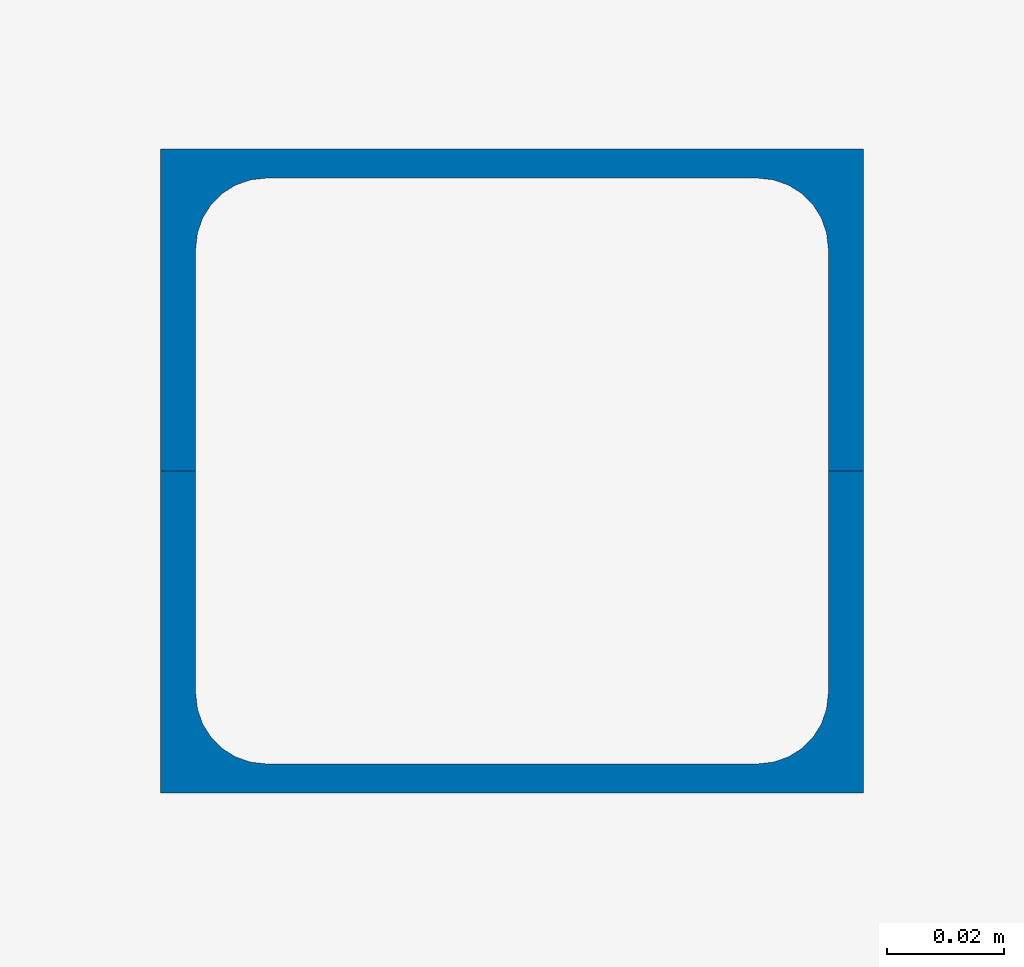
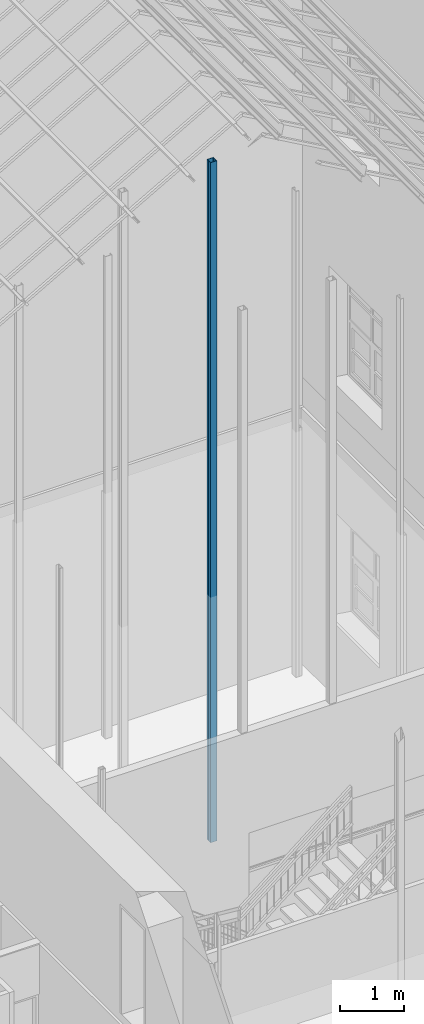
# One storey, part 13 of 75: 2 columns.
"""IFC2X3 building model written with IfcOpenShell, lengths in metres."""

from ifc_helpers import new_model, entity, si_unit, converted_unit, derived_unit, direction, frame, frame_2d, origin, place, context, subcontext, project, spatial, polyline, circle_curve, parameter, trimmed, segment, composite_curve, outline, extrude, source, transform, mapped, material, type_object, type_shapes, element, save


model = new_model("IFC2X3")

# Units and contexts
model_context = context("Model", 3, precision=1e-05, world=origin(), true_north=direction((6.12303176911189e-17, 1.0)))
body_context = subcontext(model_context, "Body", "Model", "MODEL_VIEW")
ifc_project = project(units=[si_unit("LENGTHUNIT", "METRE"), si_unit("AREAUNIT", "SQUARE_METRE"), si_unit("VOLUMEUNIT", "CUBIC_METRE"), converted_unit("PLANEANGLEUNIT", "DEGREE", entity("IfcRatioMeasure", 0.0174532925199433), si_unit("PLANEANGLEUNIT", "RADIAN"), dimensions=[0, 0, 0, 0, 0, 0, 0]), si_unit("MASSUNIT", "GRAM", prefix="KILO"), derived_unit("MASSDENSITYUNIT", [(si_unit("MASSUNIT", "GRAM", prefix="KILO"), 1), (si_unit("LENGTHUNIT", "METRE"), -3)]), derived_unit("MOMENTOFINERTIAUNIT", [(si_unit("LENGTHUNIT", "METRE"), 4)]), si_unit("TIMEUNIT", "SECOND"), si_unit("FREQUENCYUNIT", "HERTZ"), si_unit("THERMODYNAMICTEMPERATUREUNIT", "DEGREE_CELSIUS"), derived_unit("THERMALTRANSMITTANCEUNIT", [(si_unit("MASSUNIT", "GRAM", prefix="KILO"), 1), (si_unit("THERMODYNAMICTEMPERATUREUNIT", "KELVIN"), -1), (si_unit("TIMEUNIT", "SECOND"), -3)]), derived_unit("VOLUMETRICFLOWRATEUNIT", [(si_unit("LENGTHUNIT", "METRE"), 3), (si_unit("TIMEUNIT", "SECOND"), -1)]), si_unit("ELECTRICCURRENTUNIT", "AMPERE"), si_unit("ELECTRICVOLTAGEUNIT", "VOLT"), si_unit("POWERUNIT", "WATT"), si_unit("FORCEUNIT", "NEWTON", prefix="KILO"), si_unit("ILLUMINANCEUNIT", "LUX"), si_unit("LUMINOUSFLUXUNIT", "LUMEN"), si_unit("LUMINOUSINTENSITYUNIT", "CANDELA"), derived_unit("USERDEFINED", [(si_unit("MASSUNIT", "GRAM", prefix="KILO"), -1), (si_unit("LENGTHUNIT", "METRE"), -2), (si_unit("TIMEUNIT", "SECOND"), 3), (si_unit("LUMINOUSFLUXUNIT", "LUMEN"), 1)]), derived_unit("LINEARVELOCITYUNIT", [(si_unit("LENGTHUNIT", "METRE"), 1), (si_unit("TIMEUNIT", "SECOND"), -1)]), si_unit("PRESSUREUNIT", "PASCAL"), derived_unit("USERDEFINED", [(si_unit("LENGTHUNIT", "METRE"), -2), (si_unit("MASSUNIT", "GRAM", prefix="KILO"), 1), (si_unit("TIMEUNIT", "SECOND"), -2)]), derived_unit("LINEARFORCEUNIT", [(si_unit("MASSUNIT", "GRAM", prefix="KILO"), 1), (si_unit("LENGTHUNIT", "METRE"), 1), (si_unit("TIMEUNIT", "SECOND"), -2), (si_unit("LENGTHUNIT", "METRE"), -1)]), derived_unit("PLANARFORCEUNIT", [(si_unit("MASSUNIT", "GRAM", prefix="KILO"), 1), (si_unit("LENGTHUNIT", "METRE"), 1), (si_unit("TIMEUNIT", "SECOND"), -2), (si_unit("LENGTHUNIT", "METRE"), -2)])], contexts=[model_context])

# Site, building, storey
site_placement = place(None, origin())
site = spatial("IfcSite", under=ifc_project, at=site_placement, Name="Superficie", CompositionType="ELEMENT")
building_placement = place(site_placement, origin())
building = spatial("IfcBuilding", under=site, at=building_placement, Name="Telegestiones", CompositionType="ELEMENT")
storey_placement = place(building_placement, origin())
storey = spatial("IfcBuildingStorey", under=building, at=storey_placement, Name="Nivel 0_NPT", CompositionType="ELEMENT", Elevation=0.0)

# Columns
ifc_material = material(Name="Metal - Acero - 345 MPa")
column_type_1 = type_object("IfcColumnType", Name="UPE - Canales de ala paralela - Pilar:UPE 120", PredefinedType="COLUMN", material=ifc_material)
shared_shape_1 = source(origin(), body_context, "Body", "SweptSolid", [
    extrude(outline(composite_curve([segment(polyline([(-0.0599999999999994, -0.0264), (0.0600000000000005, -0.0264)]), True, "CONTINUOUS"), segment(polyline([(0.0600000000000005, -0.0264), (0.0600000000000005, 0.0286)]), True, "CONTINUOUS"), segment(polyline([(0.0600000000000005, 0.0286), (0.0539999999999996, 0.0286)]), True, "CONTINUOUS"), segment(polyline([(0.0539999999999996, 0.0286), (0.0539999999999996, -0.00939999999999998)]), True, "CONTINUOUS"), segment(trimmed(circle_curve(frame_2d((0.0419999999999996, -0.0094), x_axis=(1.0, 0.0)), 0.012), [parameter(270.0)], [parameter(0.0)], True, "PARAMETER"), False, "CONTINUOUS"), segment(polyline([(0.0419999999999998, -0.0214), (-0.0420000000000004, -0.0214)]), True, "CONTINUOUS"), segment(trimmed(circle_curve(frame_2d((-0.0420000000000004, -0.00940000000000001), x_axis=(0.0, -1.0)), 0.012), [parameter(270.0)], [parameter(0.0)], True, "PARAMETER"), False, "CONTINUOUS"), segment(polyline([(-0.0540000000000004, -0.0094), (-0.0540000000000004, 0.0286)]), True, "CONTINUOUS"), segment(polyline([(-0.0540000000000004, 0.0286), (-0.0599999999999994, 0.0286)]), True, "CONTINUOUS"), segment(polyline([(-0.0599999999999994, 0.0286), (-0.0599999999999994, -0.0264)]), True, "CONTINUOUS")], self_intersect=False)), frame((0.00660000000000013, 0.0, 0.0), z_axis=(0.0, 0.0, 1.0), x_axis=(0.0, -1.0, 0.0)), (0.0, 0.0, 1.0), 13.07),
])
type_shapes(column_type_1, [shared_shape_1])
column_1_placement = place(storey_placement, frame((11.2728126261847, 10.1564072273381, 0.0), z_axis=(0.0, 0.0, 1.0), x_axis=(0.0, 1.0, 0.0)))
element("IfcColumn", 1, at=column_1_placement, inside=storey, type_object=column_type_1, Name="UPE - Canales de ala paralela - Pilar:UPE 120", ObjectType="UPE - Canales de ala paralela - Pilar:UPE 120", context=body_context, shape_type="MappedRepresentation", body=[
    mapped(shared_shape_1, transform((0.0, 0.0, 0.0), scale=1.0)),
])
column_type_2 = type_object("IfcColumnType", Name="UPE - Canales de ala paralela - Pilar:UPE 120", PredefinedType="COLUMN", material=ifc_material)
shared_shape_2 = source(origin(), body_context, "Body", "SweptSolid", [
    extrude(outline(composite_curve([segment(polyline([(-0.0600000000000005, -0.0264), (0.0599999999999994, -0.0264)]), True, "CONTINUOUS"), segment(polyline([(0.0599999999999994, -0.0264), (0.0599999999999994, 0.0286)]), True, "CONTINUOUS"), segment(polyline([(0.0599999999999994, 0.0286), (0.0540000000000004, 0.0286)]), True, "CONTINUOUS"), segment(polyline([(0.0540000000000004, 0.0286), (0.0540000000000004, -0.00939999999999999)]), True, "CONTINUOUS"), segment(trimmed(circle_curve(frame_2d((0.0420000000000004, -0.00939999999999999), x_axis=(1.0, 0.0)), 0.012), [parameter(270.0)], [parameter(0.0)], True, "PARAMETER"), False, "CONTINUOUS"), segment(polyline([(0.0420000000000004, -0.0214), (-0.0419999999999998, -0.0214)]), True, "CONTINUOUS"), segment(trimmed(circle_curve(frame_2d((-0.0419999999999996, -0.00939999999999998), x_axis=(0.0, -1.0)), 0.012), [parameter(270.0)], [parameter(0.0)], True, "PARAMETER"), False, "CONTINUOUS"), segment(polyline([(-0.0539999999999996, -0.00939999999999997), (-0.0539999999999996, 0.0286)]), True, "CONTINUOUS"), segment(polyline([(-0.0539999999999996, 0.0286), (-0.0600000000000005, 0.0286)]), True, "CONTINUOUS"), segment(polyline([(-0.0600000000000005, 0.0286), (-0.0600000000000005, -0.0264)]), True, "CONTINUOUS")], self_intersect=False)), frame((0.00660000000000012, 0.0, 0.0), z_axis=(0.0, 0.0, 1.0), x_axis=(0.0, -1.0, 0.0)), (0.0, 0.0, 1.0), 13.07),
])
type_shapes(column_type_2, [shared_shape_2])
column_2_placement = place(storey_placement, frame((11.2728126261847, 10.2268072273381, 0.0), z_axis=(0.0, 0.0, 1.0), x_axis=(0.0, -1.0, 0.0)))
element("IfcColumn", 2, at=column_2_placement, inside=storey, type_object=column_type_2, Name="UPE - Canales de ala paralela - Pilar:UPE 120", ObjectType="UPE - Canales de ala paralela - Pilar:UPE 120", context=body_context, shape_type="MappedRepresentation", body=[
    mapped(shared_shape_2, transform((0.0, 0.0, 0.0), scale=1.0)),
])

save(model, "model.ifc")
